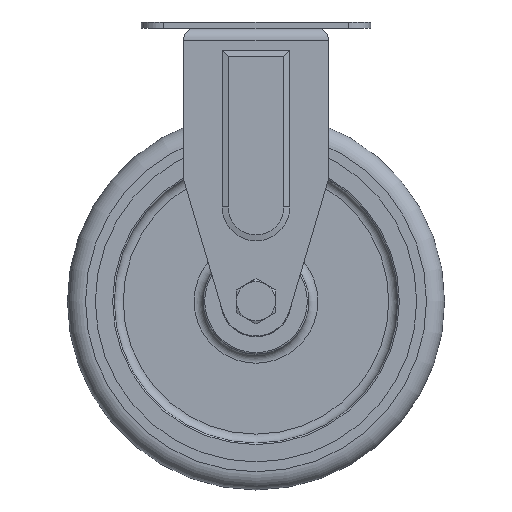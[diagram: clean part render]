
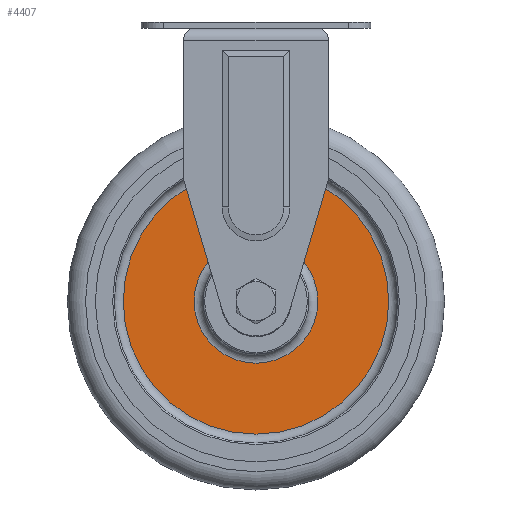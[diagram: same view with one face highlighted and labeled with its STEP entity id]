
A CAD part, top view. The second image highlights one B-rep face of the part: STEP entity #4407.
In plain terms, the highlighted planar face has unit normal (0, 0, 1).
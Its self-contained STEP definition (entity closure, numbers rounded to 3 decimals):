
#356=FACE_BOUND('',#915,.T.);
#442=PLANE('',#4906);
#623=FACE_OUTER_BOUND('',#914,.T.);
#914=EDGE_LOOP('',(#3404));
#915=EDGE_LOOP('',(#3405));
#1643=CIRCLE('',#4880,20.5);
#1653=CIRCLE('',#4892,44.);
#1919=VERTEX_POINT('',#7022);
#1926=VERTEX_POINT('',#7040);
#2427=EDGE_CURVE('',#1919,#1919,#1643,.T.);
#2437=EDGE_CURVE('',#1926,#1926,#1653,.T.);
#3404=ORIENTED_EDGE('',*,*,#2437,.T.);
#3405=ORIENTED_EDGE('',*,*,#2427,.T.);
#4407=ADVANCED_FACE('',(#623,#356),#442,.F.);
#4880=AXIS2_PLACEMENT_3D('',#7023,#5876,#5877);
#4892=AXIS2_PLACEMENT_3D('',#7042,#5900,#5901);
#4906=AXIS2_PLACEMENT_3D('',#7065,#5935,#5936);
#5876=DIRECTION('center_axis',(0.,0.,-1.));
#5877=DIRECTION('ref_axis',(-1.,0.,0.));
#5900=DIRECTION('center_axis',(0.,0.,1.));
#5901=DIRECTION('ref_axis',(-1.,0.,0.));
#5935=DIRECTION('center_axis',(0.,0.,-1.));
#5936=DIRECTION('ref_axis',(-1.,0.,0.));
#7022=CARTESIAN_POINT('',(20.5,-90.5,4.));
#7023=CARTESIAN_POINT('Origin',(0.,-90.5,4.));
#7040=CARTESIAN_POINT('',(44.,-90.5,4.));
#7042=CARTESIAN_POINT('Origin',(0.,-90.5,4.));
#7065=CARTESIAN_POINT('Origin',(0.,-43.5,4.));
